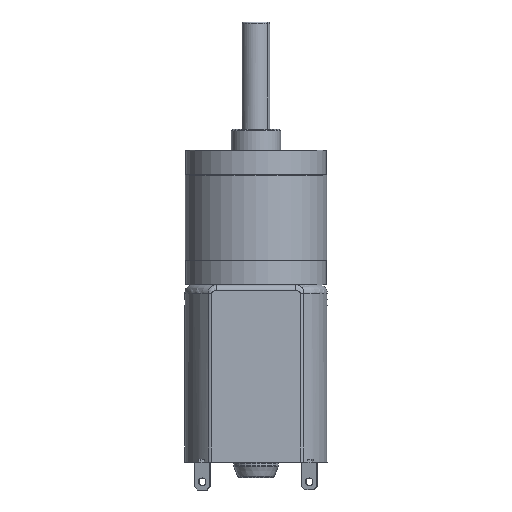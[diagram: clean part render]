
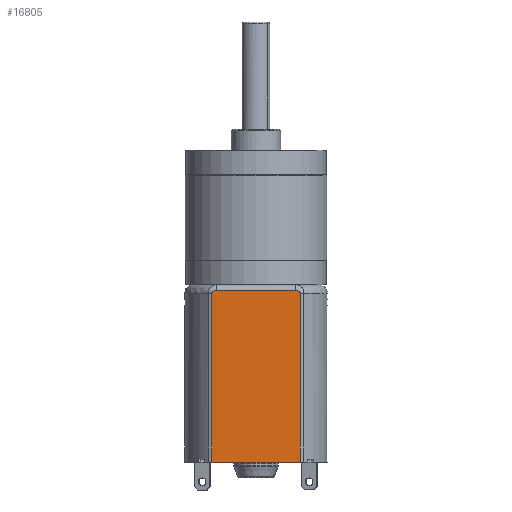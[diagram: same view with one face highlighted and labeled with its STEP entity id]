
A CAD part, left-side view. The second image highlights one B-rep face of the part: STEP entity #16805.
In plain terms, the highlighted planar face has unit normal (-1, 0, 0).
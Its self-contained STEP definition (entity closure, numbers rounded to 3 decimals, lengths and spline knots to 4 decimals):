
#543 = CARTESIAN_POINT ( 'NONE',  ( -0.301, -0.2209, -0.778 ) ) ;
#616 = CARTESIAN_POINT ( 'NONE',  ( -0.301, 0.2384, -0.7827 ) ) ;
#3155 = DIRECTION ( 'NONE',  ( 0., -1., 0. ) ) ;
#3975 = CARTESIAN_POINT ( 'NONE',  ( -0.301, 0.2449, -0.7937 ) ) ;
#4424 = ORIENTED_EDGE ( 'NONE', *, *, #40336, .T. ) ;
#4732 = AXIS2_PLACEMENT_3D ( 'NONE', #9433, #39449, #5588 ) ;
#5556 = VECTOR ( 'NONE', #15353, 39.3701 ) ;
#5588 = DIRECTION ( 'NONE',  ( 0., 0., -1. ) ) ;
#6192 = CARTESIAN_POINT ( 'NONE',  ( -0.301, -0.2406, -0.7843 ) ) ;
#6590 = CARTESIAN_POINT ( 'NONE',  ( -0.301, 0.2449, -1.7303 ) ) ;
#7351 = ORIENTED_EDGE ( 'NONE', *, *, #11451, .T. ) ;
#9433 = CARTESIAN_POINT ( 'NONE',  ( -0.301, 0., -1.7303 ) ) ;
#10119 = VERTEX_POINT ( 'NONE', #6590 ) ;
#10916 = CARTESIAN_POINT ( 'NONE',  ( -0.301, 0.2261, -0.7782 ) ) ;
#11451 = EDGE_CURVE ( 'NONE', #13065, #13890, #25059, .T. ) ;
#11665 = EDGE_CURVE ( 'NONE', #18455, #12188, #32432, .T. ) ;
#11796 = CARTESIAN_POINT ( 'NONE',  ( -0.301, -0.2449, -0.7937 ) ) ;
#12074 = ORIENTED_EDGE ( 'NONE', *, *, #16931, .T. ) ;
#12188 = VERTEX_POINT ( 'NONE', #31910 ) ;
#13065 = VERTEX_POINT ( 'NONE', #36615 ) ;
#13890 = VERTEX_POINT ( 'NONE', #3975 ) ;
#15353 = DIRECTION ( 'NONE',  ( 0., 0., 1. ) ) ;
#15779 = VERTEX_POINT ( 'NONE', #543 ) ;
#16273 = EDGE_CURVE ( 'NONE', #10119, #18455, #32485, .T. ) ;
#16805 = ADVANCED_FACE ( 'NONE', ( #35635 ), #29010, .T. ) ;
#16931 = EDGE_CURVE ( 'NONE', #13890, #10119, #25105, .T. ) ;
#16953 = CARTESIAN_POINT ( 'NONE',  ( -0.301, -0.2449, -0.791 ) ) ;
#18455 = VERTEX_POINT ( 'NONE', #37390 ) ;
#18479 = EDGE_CURVE ( 'NONE', #15779, #13065, #19246, .T. ) ;
#19246 = LINE ( 'NONE', #23737, #27123 ) ;
#20043 = CARTESIAN_POINT ( 'NONE',  ( -0.301, -0.2262, -0.778 ) ) ;
#20787 = CARTESIAN_POINT ( 'NONE',  ( -0.301, 0.2338, -0.7802 ) ) ;
#21378 = CARTESIAN_POINT ( 'NONE',  ( -0.301, 0.2406, -0.7843 ) ) ;
#22469 = VECTOR ( 'NONE', #33269, 39.3701 ) ;
#23584 = CARTESIAN_POINT ( 'NONE',  ( -0.301, -0.2449, -0.7937 ) ) ;
#23737 = CARTESIAN_POINT ( 'NONE',  ( -0.301, 0.1755, -0.778 ) ) ;
#24007 = DIRECTION ( 'NONE',  ( 0., 1., 0. ) ) ;
#25059 = B_SPLINE_CURVE_WITH_KNOTS ( 'NONE', 3,
 ( #41115, #27549, #10916, #30937, #20787, #616, #21378, #37559, #37844, #38140 ),
 .UNSPECIFIED., .F., .F.,
 ( 4, 2, 2, 2, 4 ),
 ( 0., 0.0002, 0.0004, 0.0006, 0.0008 ),
 .UNSPECIFIED. ) ;
#25105 = LINE ( 'NONE', #33412, #22469 ) ;
#27123 = VECTOR ( 'NONE', #24007, 39.3701 ) ;
#27549 = CARTESIAN_POINT ( 'NONE',  ( -0.301, 0.2235, -0.778 ) ) ;
#28253 = VECTOR ( 'NONE', #3155, 39.3701 ) ;
#29010 = PLANE ( 'NONE',  #4732 ) ;
#30937 = CARTESIAN_POINT ( 'NONE',  ( -0.301, 0.2312, -0.7793 ) ) ;
#31910 = CARTESIAN_POINT ( 'NONE',  ( -0.301, -0.2449, -0.7937 ) ) ;
#32105 = ORIENTED_EDGE ( 'NONE', *, *, #18479, .T. ) ;
#32432 = LINE ( 'NONE', #11796, #5556 ) ;
#32485 = LINE ( 'NONE', #33654, #28253 ) ;
#33141 = CARTESIAN_POINT ( 'NONE',  ( -0.301, -0.2209, -0.778 ) ) ;
#33269 = DIRECTION ( 'NONE',  ( 0., 0., -1. ) ) ;
#33412 = CARTESIAN_POINT ( 'NONE',  ( -0.301, 0.2449, -1.7303 ) ) ;
#33438 = CARTESIAN_POINT ( 'NONE',  ( -0.301, -0.2385, -0.7827 ) ) ;
#33654 = CARTESIAN_POINT ( 'NONE',  ( -0.301, 0., -1.7303 ) ) ;
#35450 = ORIENTED_EDGE ( 'NONE', *, *, #11665, .T. ) ;
#35635 = FACE_OUTER_BOUND ( 'NONE', #38491, .T. ) ;
#36615 = CARTESIAN_POINT ( 'NONE',  ( -0.301, 0.2209, -0.778 ) ) ;
#36819 = CARTESIAN_POINT ( 'NONE',  ( -0.301, -0.2439, -0.7885 ) ) ;
#37390 = CARTESIAN_POINT ( 'NONE',  ( -0.301, -0.2449, -1.7303 ) ) ;
#37559 = CARTESIAN_POINT ( 'NONE',  ( -0.301, 0.2439, -0.7884 ) ) ;
#37844 = CARTESIAN_POINT ( 'NONE',  ( -0.301, 0.2449, -0.791 ) ) ;
#38140 = CARTESIAN_POINT ( 'NONE',  ( -0.301, 0.2449, -0.7937 ) ) ;
#38491 = EDGE_LOOP ( 'NONE', ( #7351, #12074, #40258, #35450, #4424, #32105 ) ) ;
#39449 = DIRECTION ( 'NONE',  ( -1., 0., 0. ) ) ;
#39924 = CARTESIAN_POINT ( 'NONE',  ( -0.301, -0.2315, -0.779 ) ) ;
#40258 = ORIENTED_EDGE ( 'NONE', *, *, #16273, .T. ) ;
#40336 = EDGE_CURVE ( 'NONE', #12188, #15779, #41912, .T. ) ;
#41115 = CARTESIAN_POINT ( 'NONE',  ( -0.301, 0.2209, -0.778 ) ) ;
#41912 = B_SPLINE_CURVE_WITH_KNOTS ( 'NONE', 3,
 ( #23584, #16953, #36819, #6192, #33438, #39924, #20043, #33141 ),
 .UNSPECIFIED., .F., .F.,
 ( 4, 2, 2, 4 ),
 ( 0., 0.0002, 0.0004, 0.0008 ),
 .UNSPECIFIED. ) ;
